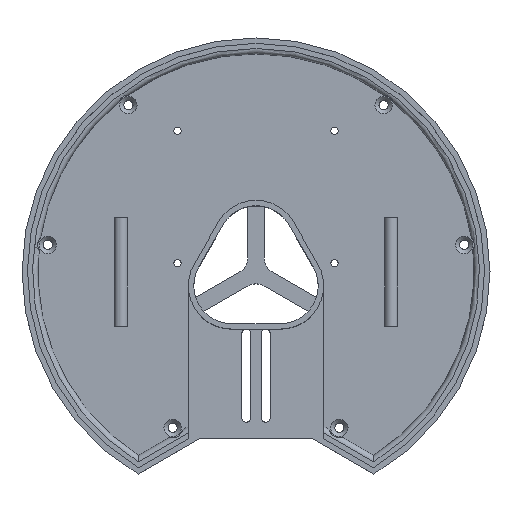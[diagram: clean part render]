
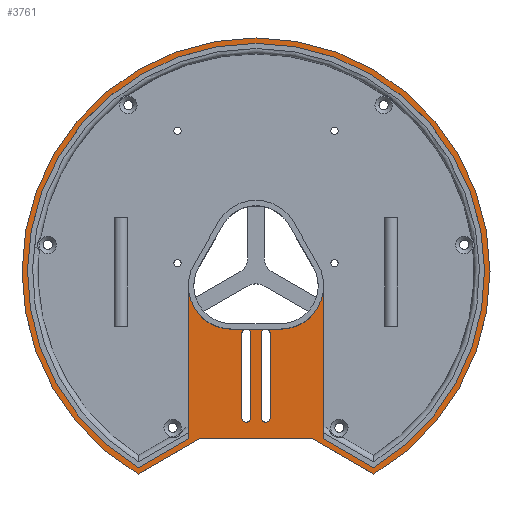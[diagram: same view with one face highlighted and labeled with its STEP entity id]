
A CAD part, top view. The second image highlights one B-rep face of the part: STEP entity #3761.
In plain terms, the highlighted planar face has unit normal (0, 0, 1).
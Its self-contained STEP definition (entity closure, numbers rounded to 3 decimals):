
#64=FACE_BOUND('',#497,.T.);
#268=FACE_OUTER_BOUND('',#496,.T.);
#496=EDGE_LOOP('',(#3112,#3113,#3114,#3115));
#497=EDGE_LOOP('',(#3116,#3117,#3118,#3119,#3120,#3121,#3122,#3123,#3124,
#3125,#3126,#3127,#3128,#3129,#3130,#3131,#3132,#3133,#3134,#3135));
#622=CIRCLE('',#3900,1.6);
#623=CIRCLE('',#3903,1.6);
#624=CIRCLE('',#3904,1.6);
#625=CIRCLE('',#3907,1.6);
#626=CIRCLE('',#3908,1.6);
#627=CIRCLE('',#3911,1.6);
#628=CIRCLE('',#3914,16.);
#686=CIRCLE('',#4012,16.);
#753=CIRCLE('',#4106,84.5);
#754=CIRCLE('',#4123,86.5);
#832=LINE('',#5534,#1185);
#835=LINE('',#5545,#1188);
#838=LINE('',#5554,#1191);
#840=LINE('',#5560,#1193);
#847=LINE('',#5582,#1200);
#848=LINE('',#5583,#1201);
#849=LINE('',#5584,#1202);
#853=LINE('',#5593,#1206);
#858=LINE('',#5602,#1211);
#863=LINE('',#5617,#1216);
#881=LINE('',#5703,#1234);
#1024=LINE('',#6408,#1377);
#1027=LINE('',#6413,#1380);
#1028=LINE('',#6419,#1381);
#1185=VECTOR('',#4389,10.);
#1188=VECTOR('',#4400,10.);
#1191=VECTOR('',#4411,10.);
#1193=VECTOR('',#4419,10.);
#1200=VECTOR('',#4438,10.);
#1201=VECTOR('',#4439,10.);
#1202=VECTOR('',#4440,10.);
#1206=VECTOR('',#4446,10.);
#1211=VECTOR('',#4453,10.);
#1216=VECTOR('',#4464,10.);
#1234=VECTOR('',#4504,10.);
#1377=VECTOR('',#5015,10.);
#1380=VECTOR('',#5020,10.);
#1381=VECTOR('',#5029,10.);
#1541=VERTEX_POINT('',#5526);
#1542=VERTEX_POINT('',#5528);
#1543=VERTEX_POINT('',#5532);
#1544=VERTEX_POINT('',#5536);
#1545=VERTEX_POINT('',#5538);
#1546=VERTEX_POINT('',#5542);
#1547=VERTEX_POINT('',#5544);
#1548=VERTEX_POINT('',#5548);
#1549=VERTEX_POINT('',#5550);
#1550=VERTEX_POINT('',#5556);
#1551=VERTEX_POINT('',#5562);
#1552=VERTEX_POINT('',#5563);
#1559=VERTEX_POINT('',#5581);
#1562=VERTEX_POINT('',#5590);
#1563=VERTEX_POINT('',#5592);
#1572=VERTEX_POINT('',#5614);
#1573=VERTEX_POINT('',#5616);
#1594=VERTEX_POINT('',#5701);
#1789=VERTEX_POINT('',#6405);
#1790=VERTEX_POINT('',#6407);
#1791=VERTEX_POINT('',#6411);
#1792=VERTEX_POINT('',#6417);
#1932=EDGE_CURVE('',#1542,#1541,#622,.T.);
#1935=EDGE_CURVE('',#1541,#1543,#832,.T.);
#1937=EDGE_CURVE('',#1545,#1544,#623,.T.);
#1938=EDGE_CURVE('',#1543,#1545,#624,.T.);
#1940=EDGE_CURVE('',#1547,#1546,#835,.T.);
#1943=EDGE_CURVE('',#1549,#1548,#625,.T.);
#1944=EDGE_CURVE('',#1546,#1549,#626,.T.);
#1945=EDGE_CURVE('',#1544,#1542,#838,.T.);
#1946=EDGE_CURVE('',#1550,#1547,#627,.T.);
#1948=EDGE_CURVE('',#1548,#1550,#840,.T.);
#1949=EDGE_CURVE('',#1551,#1552,#628,.T.);
#1958=EDGE_CURVE('',#1559,#1549,#847,.T.);
#1959=EDGE_CURVE('',#1549,#1545,#848,.T.);
#1960=EDGE_CURVE('',#1545,#1551,#849,.T.);
#1964=EDGE_CURVE('',#1563,#1562,#853,.T.);
#1969=EDGE_CURVE('',#1562,#1552,#858,.T.);
#1976=EDGE_CURVE('',#1573,#1572,#863,.T.);
#2002=EDGE_CURVE('',#1572,#1594,#881,.T.);
#2101=EDGE_CURVE('',#1573,#1559,#686,.T.);
#2265=EDGE_CURVE('',#1594,#1563,#753,.T.);
#2271=EDGE_CURVE('',#1790,#1789,#1024,.T.);
#2274=EDGE_CURVE('',#1789,#1791,#1027,.T.);
#2275=EDGE_CURVE('',#1791,#1792,#754,.T.);
#2276=EDGE_CURVE('',#1792,#1790,#1028,.T.);
#3112=ORIENTED_EDGE('',*,*,#2275,.T.);
#3113=ORIENTED_EDGE('',*,*,#2276,.T.);
#3114=ORIENTED_EDGE('',*,*,#2271,.T.);
#3115=ORIENTED_EDGE('',*,*,#2274,.T.);
#3116=ORIENTED_EDGE('',*,*,#2002,.T.);
#3117=ORIENTED_EDGE('',*,*,#2265,.T.);
#3118=ORIENTED_EDGE('',*,*,#1964,.T.);
#3119=ORIENTED_EDGE('',*,*,#1969,.T.);
#3120=ORIENTED_EDGE('',*,*,#1949,.F.);
#3121=ORIENTED_EDGE('',*,*,#1960,.F.);
#3122=ORIENTED_EDGE('',*,*,#1937,.T.);
#3123=ORIENTED_EDGE('',*,*,#1945,.T.);
#3124=ORIENTED_EDGE('',*,*,#1932,.T.);
#3125=ORIENTED_EDGE('',*,*,#1935,.T.);
#3126=ORIENTED_EDGE('',*,*,#1938,.T.);
#3127=ORIENTED_EDGE('',*,*,#1959,.F.);
#3128=ORIENTED_EDGE('',*,*,#1943,.T.);
#3129=ORIENTED_EDGE('',*,*,#1948,.T.);
#3130=ORIENTED_EDGE('',*,*,#1946,.T.);
#3131=ORIENTED_EDGE('',*,*,#1940,.T.);
#3132=ORIENTED_EDGE('',*,*,#1944,.T.);
#3133=ORIENTED_EDGE('',*,*,#1958,.F.);
#3134=ORIENTED_EDGE('',*,*,#2101,.F.);
#3135=ORIENTED_EDGE('',*,*,#1976,.T.);
#3607=PLANE('',#4122);
#3761=ADVANCED_FACE('',(#268,#64),#3607,.T.);
#3900=AXIS2_PLACEMENT_3D('',#5529,#4383,#4384);
#3903=AXIS2_PLACEMENT_3D('',#5539,#4393,#4394);
#3904=AXIS2_PLACEMENT_3D('',#5540,#4395,#4396);
#3907=AXIS2_PLACEMENT_3D('',#5551,#4405,#4406);
#3908=AXIS2_PLACEMENT_3D('',#5552,#4407,#4408);
#3911=AXIS2_PLACEMENT_3D('',#5557,#4414,#4415);
#3914=AXIS2_PLACEMENT_3D('',#5564,#4422,#4423);
#4012=AXIS2_PLACEMENT_3D('',#5899,#4708,#4709);
#4106=AXIS2_PLACEMENT_3D('',#6388,#4984,#4985);
#4122=AXIS2_PLACEMENT_3D('',#6416,#5025,#5026);
#4123=AXIS2_PLACEMENT_3D('',#6418,#5027,#5028);
#4383=DIRECTION('center_axis',(0.,0.,-1.));
#4384=DIRECTION('ref_axis',(-1.,0.,0.));
#4389=DIRECTION('',(0.,1.,0.));
#4393=DIRECTION('center_axis',(0.,0.,-1.));
#4394=DIRECTION('ref_axis',(1.,0.,0.));
#4395=DIRECTION('center_axis',(0.,0.,-1.));
#4396=DIRECTION('ref_axis',(1.,0.,0.));
#4400=DIRECTION('',(0.,1.,0.));
#4405=DIRECTION('center_axis',(0.,0.,-1.));
#4406=DIRECTION('ref_axis',(1.,0.,0.));
#4407=DIRECTION('center_axis',(0.,0.,-1.));
#4408=DIRECTION('ref_axis',(1.,0.,0.));
#4411=DIRECTION('',(0.,-1.,0.));
#4414=DIRECTION('center_axis',(0.,0.,-1.));
#4415=DIRECTION('ref_axis',(-1.,0.,0.));
#4419=DIRECTION('',(0.,-1.,0.));
#4422=DIRECTION('center_axis',(0.,0.,1.));
#4423=DIRECTION('ref_axis',(0.,-1.,0.));
#4438=DIRECTION('',(1.,0.,0.));
#4439=DIRECTION('',(1.,0.,0.));
#4440=DIRECTION('',(1.,0.,0.));
#4446=DIRECTION('',(-0.866,0.5,0.));
#4453=DIRECTION('',(0.,1.,0.));
#4464=DIRECTION('',(0.,-1.,0.));
#4504=DIRECTION('',(-0.866,-0.5,0.));
#4708=DIRECTION('center_axis',(0.,0.,1.));
#4709=DIRECTION('ref_axis',(-0.866,0.5,0.));
#4984=DIRECTION('center_axis',(0.,0.,-1.));
#4985=DIRECTION('ref_axis',(1.,0.,0.));
#5015=DIRECTION('',(1.,0.,0.));
#5020=DIRECTION('',(0.866,-0.5,0.));
#5025=DIRECTION('center_axis',(0.,0.,1.));
#5026=DIRECTION('ref_axis',(-1.,0.,0.));
#5027=DIRECTION('center_axis',(0.,0.,1.));
#5028=DIRECTION('ref_axis',(0.504,-0.864,0.));
#5029=DIRECTION('',(0.866,0.5,0.));
#5526=CARTESIAN_POINT('',(2.,-53.909,40.75));
#5528=CARTESIAN_POINT('',(5.2,-53.909,40.75));
#5529=CARTESIAN_POINT('Origin',(3.6,-53.909,40.75));
#5532=CARTESIAN_POINT('',(2.,-22.796,40.75));
#5534=CARTESIAN_POINT('',(2.,-22.796,40.75));
#5536=CARTESIAN_POINT('',(5.2,-22.796,40.75));
#5538=CARTESIAN_POINT('',(3.6,-21.196,40.75));
#5539=CARTESIAN_POINT('Origin',(3.6,-22.796,40.75));
#5540=CARTESIAN_POINT('Origin',(3.6,-22.796,40.75));
#5542=CARTESIAN_POINT('',(-5.2,-22.796,40.75));
#5544=CARTESIAN_POINT('',(-5.2,-53.909,40.75));
#5545=CARTESIAN_POINT('',(-5.2,-22.796,40.75));
#5548=CARTESIAN_POINT('',(-2.,-22.796,40.75));
#5550=CARTESIAN_POINT('',(-3.6,-21.196,40.75));
#5551=CARTESIAN_POINT('Origin',(-3.6,-22.796,40.75));
#5552=CARTESIAN_POINT('Origin',(-3.6,-22.796,40.75));
#5554=CARTESIAN_POINT('',(5.2,-53.909,40.75));
#5556=CARTESIAN_POINT('',(-2.,-53.909,40.75));
#5557=CARTESIAN_POINT('Origin',(-3.6,-53.909,40.75));
#5560=CARTESIAN_POINT('',(-2.,-53.909,40.75));
#5562=CARTESIAN_POINT('',(9.,-21.196,40.75));
#5563=CARTESIAN_POINT('',(25.,-5.196,40.75));
#5564=CARTESIAN_POINT('Origin',(9.,-5.196,40.75));
#5581=CARTESIAN_POINT('',(-9.,-21.196,40.75));
#5582=CARTESIAN_POINT('',(4.5,-21.196,40.75));
#5583=CARTESIAN_POINT('',(4.5,-21.196,40.75));
#5584=CARTESIAN_POINT('',(4.5,-21.196,40.75));
#5590=CARTESIAN_POINT('',(25.,-61.661,40.75));
#5592=CARTESIAN_POINT('',(43.586,-72.392,40.75));
#5593=CARTESIAN_POINT('',(21.563,-59.677,40.75));
#5602=CARTESIAN_POINT('',(25.,-59.467,40.75));
#5614=CARTESIAN_POINT('',(-25.,-61.661,40.75));
#5616=CARTESIAN_POINT('',(-25.,-5.196,40.75));
#5617=CARTESIAN_POINT('',(-25.,-5.196,40.75));
#5701=CARTESIAN_POINT('',(-43.586,-72.392,40.75));
#5703=CARTESIAN_POINT('',(-44.599,-72.977,40.75));
#5899=CARTESIAN_POINT('Origin',(-9.,-5.196,40.75));
#6388=CARTESIAN_POINT('Origin',(0.,0.,
40.75));
#6405=CARTESIAN_POINT('',(20.563,-61.409,40.75));
#6407=CARTESIAN_POINT('',(-20.563,-61.409,40.75));
#6408=CARTESIAN_POINT('',(-20.563,-61.409,40.75));
#6411=CARTESIAN_POINT('',(43.599,-74.709,40.75));
#6413=CARTESIAN_POINT('',(20.563,-61.409,40.75));
#6416=CARTESIAN_POINT('Origin',(0.,5.896,
40.75));
#6417=CARTESIAN_POINT('',(-43.599,-74.709,40.75));
#6418=CARTESIAN_POINT('Origin',(0.,0.,
40.75));
#6419=CARTESIAN_POINT('',(-43.599,-74.709,40.75));
